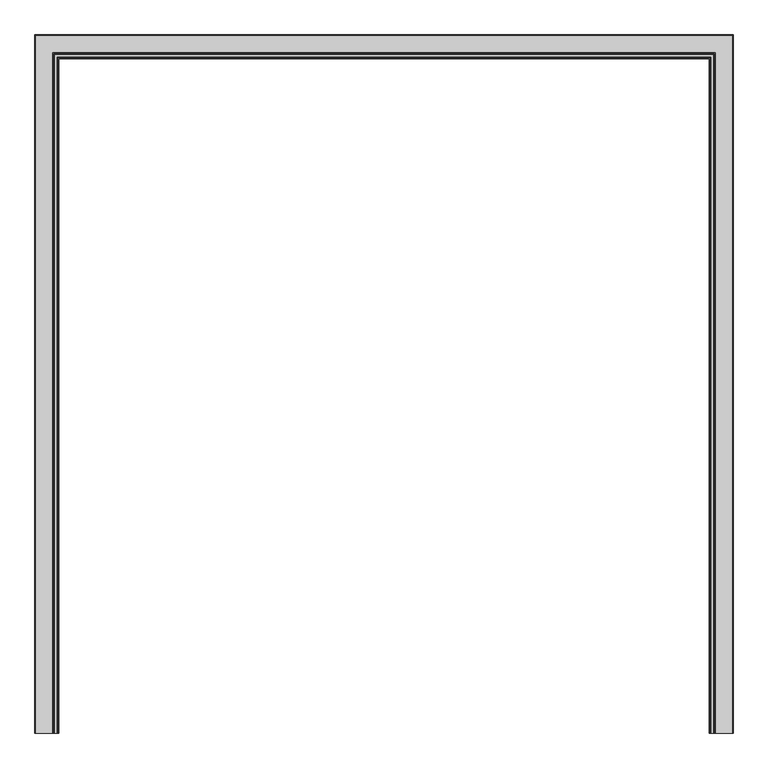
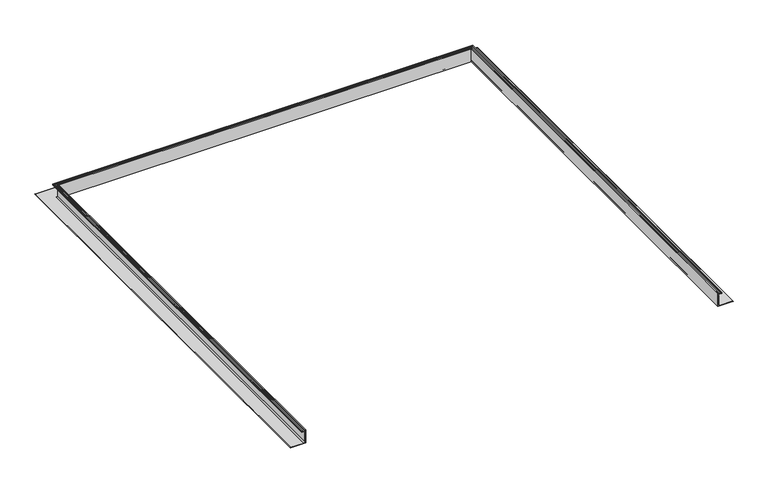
"""IFC4 building model written with IfcOpenShell, lengths in millimetres: fastener geometry."""

from ifc_helpers import new_model, si_unit, frame, origin, place, context, project, spatial, polyline, circle_curve, ellipse_curve, outline, extrude, source, transform, mapped, element, save
from ifc_brep_helpers import plane_surface, cylinder_surface, revolved_surface, advanced_brep


def fastener_6eb733fe(model_context):
    return source(origin(), model_context, "Body", "SolidModel", [
        advanced_brep(
        [(-1135.3165, -1219.2, -15.1804688), (-1141.2343456, -1219.2, -15.1804688), (-1141.460117, -1219.2, -17.1999455), (-1140.3710112, -1219.2, -18.2679836), (-1140.8594568, -1219.2, -19.21101), (-1152.5091166, -1219.2, -19.21101), (-1152.9649499, -1219.2, -18.2679836), (-1151.9131963, -1219.2, -17.1999455), (-1152.1178999, -1219.2, -15.1804688), (-1156.2117258, -1219.2, -15.1804688), (-1156.2117258, -1219.2, -21.87801), (-1137.9835, -1219.2, -21.87801), (-1137.9835, -1219.2, -81.1625171), (-1145.5344517, -1219.2, -88.7134688), (-1217.8665, -1219.2, -88.7134688), (-1217.8665, -1219.2, -91.3804688), (-1135.3165, -1219.2, -91.3804688), (1135.3165, -1219.2, -15.1804688), (1135.3165, -1219.2, -91.3804688), (1217.8665, -1219.2, -91.3804688), (1217.8665, -1219.2, -88.7134688), (1145.5344517, -1219.2, -88.7134688), (1137.9835, -1219.2, -81.1625171), (1137.9835, -1219.2, -21.87801), (1156.2117258, -1219.2, -21.87801), (1156.2117258, -1219.2, -15.1804688), (1152.1178999, -1219.2, -15.1804688), (1151.9131963, -1219.2, -17.1999455), (1152.9649499, -1219.2, -18.2679836), (1152.5091166, -1219.2, -19.21101), (1140.8594568, -1219.2, -19.21101), (1140.3710112, -1219.2, -18.2679836), (1141.460117, -1219.2, -17.1999455), (1141.2343456, -1219.2, -15.1804688), (-1141.460117, 1141.460117, -17.1999455), (-1141.2343456, 1141.2343456, -15.1804688), (1141.2343456, 1141.2343456, -15.1804688), (1141.460117, 1141.460117, -17.1999455), (-1140.3710112, 1140.3710112, -18.2679836), (1140.3710112, 1140.3710112, -18.2679836), (-1140.8594568, 1140.8594568, -19.21101), (1140.8594568, 1140.8594568, -19.21101), (-1152.9649499, 1152.9649499, -18.2679836), (-1152.5091166, 1152.5091166, -19.21101), (1152.5091166, 1152.5091166, -19.21101), (1152.9649499, 1152.9649499, -18.2679836), (-1151.9131963, 1151.9131963, -17.1999455), (1151.9131963, 1151.9131963, -17.1999455), (-1152.1178999, 1152.1178999, -15.1804688), (1152.1178999, 1152.1178999, -15.1804688), (-1156.2117258, 1156.2117258, -21.87801), (-1156.2117258, 1156.2117258, -15.1804688), (1156.2117258, 1156.2117258, -15.1804688), (1156.2117258, 1156.2117258, -21.87801), (-1137.9835, 1137.9835, -81.1625171), (-1137.9835, 1137.9835, -21.87801), (1137.9835, 1137.9835, -21.87801), (1137.9835, 1137.9835, -81.1625171), (-1145.5344517, 1145.5344517, -88.7134688), (1145.5344517, 1145.5344517, -88.7134688), (-1217.8665, 1217.8665, -91.3804688), (-1217.8665, 1217.8665, -88.7134688), (1217.8665, 1217.8665, -88.7134688), (1217.8665, 1217.8665, -91.3804688), (-1135.3165, 1135.3165, -15.1804688), (-1135.3165, 1135.3165, -91.3804688), (1135.3165, 1135.3165, -91.3804688), (1135.3165, 1135.3165, -15.1804688)],
        [
            (0, 1),
            (1, 2, circle_curve(frame((-1140.5022273, -1219.2, -16.284676), z_axis=(0.0, -1.0, 0.0), x_axis=(-1.0, 0.0, 0.0)), 1.3248664)),
            (2, 3),
            (3, 4, circle_curve(frame((-1140.8594568, -1219.2, -18.6130003), z_axis=(0.0, 1.0, 0.0), x_axis=(-1.0, 0.0, 0.0)), 0.5980097)),
            (4, 5),
            (5, 6, circle_curve(frame((-1152.5091166, -1219.2, -18.6293281), z_axis=(0.0, 1.0, 0.0), x_axis=(-1.0, 0.0, 0.0)), 0.5816819)),
            (6, 7),
            (7, 8, circle_curve(frame((-1152.8274757, -1219.2, -16.2725079), z_axis=(0.0, -1.0, 0.0), x_axis=(-1.0, 0.0, 0.0)), 1.3023238)),
            (8, 9),
            (9, 10),
            (10, 11),
            (11, 12),
            (12, 13, circle_curve(frame((-1145.5344517, -1219.2, -81.1625171), z_axis=(0.0, 1.0, 0.0), x_axis=(-1.0, 0.0, 0.0)), 7.5509517)),
            (13, 14),
            (14, 15, circle_curve(frame((-1217.8665, -1219.2, -90.0469688), z_axis=(0.0, -1.0, 0.0), x_axis=(-1.0, 0.0, 0.0)), 1.3335)),
            (15, 16),
            (16, 0),
            (17, 18),
            (18, 19),
            (19, 20, circle_curve(frame((1217.8665, -1219.2, -90.0469688), z_axis=(0.0, -1.0, 0.0), x_axis=(1.0, 0.0, 0.0)), 1.3335)),
            (20, 21),
            (21, 22, circle_curve(frame((1145.5344517, -1219.2, -81.1625171), z_axis=(0.0, 1.0, 0.0), x_axis=(1.0, 0.0, 0.0)), 7.5509517)),
            (22, 23),
            (23, 24),
            (24, 25),
            (25, 26),
            (26, 27, circle_curve(frame((1152.8274757, -1219.2, -16.2725079), z_axis=(0.0, -1.0, 0.0), x_axis=(1.0, 0.0, 0.0)), 1.3023238)),
            (27, 28),
            (28, 29, circle_curve(frame((1152.5091166, -1219.2, -18.6293281), z_axis=(0.0, 1.0, 0.0), x_axis=(1.0, 0.0, 0.0)), 0.5816819)),
            (29, 30),
            (30, 31, circle_curve(frame((1140.8594568, -1219.2, -18.6130003), z_axis=(0.0, 1.0, 0.0), x_axis=(1.0, 0.0, 0.0)), 0.5980097)),
            (31, 32),
            (32, 33, circle_curve(frame((1140.5022273, -1219.2, -16.284676), z_axis=(0.0, -1.0, 0.0), x_axis=(1.0, 0.0, 0.0)), 1.3248664)),
            (33, 17),
            (34, 35, ellipse_curve(frame((-1140.5022273, 1140.5022273, -16.284676), z_axis=(0.7071067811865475, 0.7071067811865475, 0.0), x_axis=(-0.7071067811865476, 0.7071067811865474, 0.0)), 1.873644, 1.3248664)),
            (35, 36),
            (36, 37, ellipse_curve(frame((1140.5022273, 1140.5022273, -16.284676), z_axis=(-0.7071067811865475, 0.7071067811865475, 0.0), x_axis=(-0.7071067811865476, -0.7071067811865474, 0.0)), 1.873644, 1.3248664)),
            (37, 34),
            (38, 34),
            (37, 39),
            (39, 38),
            (40, 38, ellipse_curve(frame((-1140.8594568, 1140.8594568, -18.6130003), z_axis=(-0.7071067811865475, -0.7071067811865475, 0.0), x_axis=(0.7071067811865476, -0.7071067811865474, 0.0)), 0.8457134, 0.5980097)),
            (39, 41, ellipse_curve(frame((1140.8594568, 1140.8594568, -18.6130003), z_axis=(0.7071067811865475, -0.7071067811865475, 0.0), x_axis=(0.7071067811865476, 0.7071067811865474, 0.0)), 0.8457134, 0.5980097)),
            (41, 40),
            (42, 43, ellipse_curve(frame((-1152.5091166, 1152.5091166, -18.6293281), z_axis=(-0.7071067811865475, -0.7071067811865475, 0.0), x_axis=(0.7071067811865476, -0.7071067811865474, 0.0)), 0.8226224, 0.5816819)),
            (43, 44),
            (44, 45, ellipse_curve(frame((1152.5091166, 1152.5091166, -18.6293281), z_axis=(0.7071067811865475, -0.7071067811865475, 0.0), x_axis=(0.7071067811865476, 0.7071067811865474, 0.0)), 0.8226224, 0.5816819)),
            (45, 42),
            (46, 42),
            (45, 47),
            (47, 46),
            (48, 46, ellipse_curve(frame((-1152.8274757, 1152.8274757, -16.2725079), z_axis=(0.7071067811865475, 0.7071067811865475, 0.0), x_axis=(-0.7071067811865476, 0.7071067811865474, 0.0)), 1.841764, 1.3023238)),
            (47, 49, ellipse_curve(frame((1152.8274757, 1152.8274757, -16.2725079), z_axis=(-0.7071067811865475, 0.7071067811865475, 0.0), x_axis=(-0.7071067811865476, -0.7071067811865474, 0.0)), 1.841764, 1.3023238)),
            (49, 48),
            (50, 51),
            (51, 52),
            (52, 53),
            (53, 50),
            (54, 55),
            (55, 56),
            (56, 57),
            (57, 54),
            (58, 54, ellipse_curve(frame((-1145.5344517, 1145.5344517, -81.1625171), z_axis=(-0.7071067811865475, -0.7071067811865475, 0.0), x_axis=(0.7071067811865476, -0.7071067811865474, 0.0)), 10.6786583, 7.5509517)),
            (57, 59, ellipse_curve(frame((1145.5344517, 1145.5344517, -81.1625171), z_axis=(0.7071067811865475, -0.7071067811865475, 0.0), x_axis=(0.7071067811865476, 0.7071067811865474, 0.0)), 10.6786583, 7.5509517)),
            (59, 58),
            (60, 61, ellipse_curve(frame((-1217.8665, 1217.8665, -90.0469688), z_axis=(0.7071067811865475, 0.7071067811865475, 0.0), x_axis=(-0.7071067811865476, 0.7071067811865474, 0.0)), 1.8858538, 1.3335)),
            (61, 62),
            (62, 63, ellipse_curve(frame((1217.8665, 1217.8665, -90.0469688), z_axis=(-0.7071067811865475, 0.7071067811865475, 0.0), x_axis=(-0.7071067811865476, -0.7071067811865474, 0.0)), 1.8858538, 1.3335)),
            (63, 60),
            (64, 65),
            (65, 66),
            (66, 67),
            (67, 64),
            (0, 64),
            (67, 17),
            (33, 36),
            (35, 1),
            (34, 2),
            (38, 3),
            (40, 4),
            (41, 30),
            (29, 44),
            (43, 5),
            (42, 6),
            (46, 7),
            (48, 8),
            (49, 26),
            (25, 52),
            (51, 9),
            (50, 10),
            (53, 24),
            (23, 56),
            (55, 11),
            (54, 12),
            (58, 13),
            (59, 21),
            (20, 62),
            (61, 14),
            (60, 15),
            (63, 19),
            (18, 66),
            (65, 16),
            (32, 37),
            (31, 39),
            (28, 45),
            (27, 47),
            (22, 57),
        ],
        [
            plane_surface(frame((-1219.2, -1219.2, 0.0), z_axis=(0.0, -1.0, 0.0), x_axis=(0.0, 0.0, 1.0))),
            plane_surface(frame((1219.2, -1219.2, 0.0), z_axis=(0.0, -1.0, 0.0), x_axis=(0.0, 0.0, 1.0))),
            cylinder_surface(frame((-1219.2, 1140.5022273, -16.284676), z_axis=(-1.0, 0.0, 0.0), x_axis=(0.0, 1.0, 0.0)), 1.3248664),
            plane_surface(frame((-1141.460117, 1141.460117, -17.1999455), z_axis=(0.0, 0.7001674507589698, -0.7139786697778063), x_axis=(1.0, 0.0, 0.0))),
            revolved_surface(polyline([(1141.4574664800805, 1141.4574665, -18.6130003), (-1141.4574664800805, 1141.4574665, -18.6130003)]), (-1219.2, 1140.8594568, -18.6130003), (1.0, 0.0, 0.0)),
            revolved_surface(polyline([(1153.090798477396, 1153.0907985, -18.6293281), (-1153.090798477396, 1153.0907985, -18.6293281)]), (-1219.2, 1152.5091166, -18.6293281), (1.0, 0.0, 0.0)),
            plane_surface(frame((-1152.9649499, 1152.9649499, -18.2679836), z_axis=(0.0, -0.7125178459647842, -0.7016539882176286), x_axis=(1.0, 0.0, 0.0))),
            cylinder_surface(frame((-1219.2, 1152.8274757, -16.2725079), z_axis=(-1.0, 0.0, 0.0), x_axis=(0.0, 1.0, 0.0)), 1.3023238),
            plane_surface(frame((-1156.2117258, 1156.2117258, -15.1804688), z_axis=(0.0, 1.0, 0.0), x_axis=(1.0, 0.0, 0.0))),
            plane_surface(frame((-1137.9835, 1137.9835, -21.87801), z_axis=(0.0, 1.0, 0.0), x_axis=(1.0, 0.0, 0.0))),
            revolved_surface(polyline([(1153.0854033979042, 1153.0854034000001, -81.1625171), (-1153.0854033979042, 1153.0854034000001, -81.1625171)]), (-1219.2, 1145.5344517, -81.1625171), (1.0, 0.0, 0.0)),
            cylinder_surface(frame((-1219.2, 1217.8665, -90.0469688), z_axis=(-1.0, 0.0, 0.0), x_axis=(0.0, 1.0, 0.0)), 1.3335),
            plane_surface(frame((-1135.3165, 1135.3165, -91.3804688), z_axis=(0.0, -1.0, 0.0), x_axis=(1.0, 0.0, 0.0))),
            plane_surface(frame((-1135.3165, -1219.2, -15.1804688), z_axis=(0.0, 0.0, 1.0), x_axis=(0.0, 1.0, 0.0))),
            cylinder_surface(frame((-1140.5022273, -1219.2, -16.284676), z_axis=(0.0, -1.0, 0.0), x_axis=(-1.0, 0.0, 0.0)), 1.3248664),
            plane_surface(frame((-1141.460117, -1219.2, -17.1999455), z_axis=(-0.7001674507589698, 0.0, -0.7139786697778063), x_axis=(0.0, 1.0, 0.0))),
            revolved_surface(polyline([(-1141.4574665, 1141.4574664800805, -18.6130003), (-1141.4574665, -1219.2, -18.6130003)]), (-1140.8594568, -1219.2, -18.6130003), (0.0, 1.0, 0.0)),
            plane_surface(frame((-1140.8594568, -1219.2, -19.21101), z_axis=(0.0, 0.0, 1.0), x_axis=(0.0, 1.0, 0.0))),
            revolved_surface(polyline([(-1153.0907985, 1153.090798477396, -18.6293281), (-1153.0907985, -1219.2, -18.6293281)]), (-1152.5091166, -1219.2, -18.6293281), (0.0, 1.0, 0.0)),
            plane_surface(frame((-1152.9649499, -1219.2, -18.2679836), z_axis=(0.7125178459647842, 0.0, -0.7016539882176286), x_axis=(0.0, 1.0, 0.0))),
            cylinder_surface(frame((-1152.8274757, -1219.2, -16.2725079), z_axis=(0.0, -1.0, 0.0), x_axis=(-1.0, 0.0, 0.0)), 1.3023238),
            plane_surface(frame((-1152.1178999, -1219.2, -15.1804688), z_axis=(0.0, 0.0, 1.0), x_axis=(0.0, 1.0, 0.0))),
            plane_surface(frame((-1156.2117258, -1219.2, -15.1804688), z_axis=(-1.0, 0.0, 0.0), x_axis=(0.0, 1.0, 0.0))),
            plane_surface(frame((-1156.2117258, -1219.2, -21.87801), z_axis=(0.0, 0.0, -1.0), x_axis=(0.0, 1.0, 0.0))),
            plane_surface(frame((-1137.9835, -1219.2, -21.87801), z_axis=(-1.0, 0.0, 0.0), x_axis=(0.0, 1.0, 0.0))),
            revolved_surface(polyline([(-1153.0854034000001, 1153.0854033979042, -81.1625171), (-1153.0854034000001, -1219.2, -81.1625171)]), (-1145.5344517, -1219.2, -81.1625171), (0.0, 1.0, 0.0)),
            plane_surface(frame((-1145.5344517, -1219.2, -88.7134688), z_axis=(0.0, 0.0, 1.0), x_axis=(0.0, 1.0, 0.0))),
            cylinder_surface(frame((-1217.8665, -1219.2, -90.0469688), z_axis=(0.0, -1.0, 0.0), x_axis=(-1.0, 0.0, 0.0)), 1.3335),
            plane_surface(frame((-1217.8665, -1219.2, -91.3804688), z_axis=(0.0, 0.0, -1.0), x_axis=(0.0, 1.0, 0.0))),
            plane_surface(frame((-1135.3165, -1219.2, -91.3804688), z_axis=(1.0, 0.0, 0.0), x_axis=(0.0, 1.0, 0.0))),
            cylinder_surface(frame((1140.5022273, 1219.2, -16.284676), z_axis=(0.0, 1.0, 0.0), x_axis=(1.0, 0.0, 0.0)), 1.3248664),
            plane_surface(frame((1141.460117, 1141.460117, -17.1999455), z_axis=(0.7001674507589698, 0.0, -0.7139786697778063), x_axis=(0.0, -1.0, 0.0))),
            revolved_surface(polyline([(1141.4574665, -1219.2, -18.6130003), (1141.4574665, 1141.4574664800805, -18.6130003)]), (1140.8594568, 1219.2, -18.6130003), (0.0, -1.0, 0.0)),
            revolved_surface(polyline([(1153.0907985, -1219.2, -18.6293281), (1153.0907985, 1153.090798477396, -18.6293281)]), (1152.5091166, 1219.2, -18.6293281), (0.0, -1.0, 0.0)),
            plane_surface(frame((1152.9649499, 1152.9649499, -18.2679836), z_axis=(-0.7125178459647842, 0.0, -0.7016539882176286), x_axis=(0.0, -1.0, 0.0))),
            cylinder_surface(frame((1152.8274757, 1219.2, -16.2725079), z_axis=(0.0, 1.0, 0.0), x_axis=(1.0, 0.0, 0.0)), 1.3023238),
            plane_surface(frame((1156.2117258, 1156.2117258, -15.1804688), z_axis=(1.0, 0.0, 0.0), x_axis=(0.0, -1.0, 0.0))),
            plane_surface(frame((1137.9835, 1137.9835, -21.87801), z_axis=(1.0, 0.0, 0.0), x_axis=(0.0, -1.0, 0.0))),
            revolved_surface(polyline([(1153.0854034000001, -1219.2, -81.1625171), (1153.0854034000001, 1153.0854033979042, -81.1625171)]), (1145.5344517, 1219.2, -81.1625171), (0.0, -1.0, 0.0)),
            cylinder_surface(frame((1217.8665, 1219.2, -90.0469688), z_axis=(0.0, 1.0, 0.0), x_axis=(1.0, 0.0, 0.0)), 1.3335),
            plane_surface(frame((1135.3165, 1135.3165, -91.3804688), z_axis=(-1.0, 0.0, 0.0), x_axis=(0.0, -1.0, 0.0))),
        ],
        [
            (0, [[1, 2, 3, 4, 5, 6, 7, 8, 9, 10, 11, 12, 13, 14, 15, 16, 17]]),
            (1, [[18, 19, 20, 21, 22, 23, 24, 25, 26, 27, 28, 29, 30, 31, 32, 33, 34]]),
            (2, [[35, 36, 37, 38]]),
            (3, [[39, -38, 40, 41]]),
            (4, [[42, -41, 43, 44]]),
            (5, [[45, 46, 47, 48]]),
            (6, [[49, -48, 50, 51]]),
            (7, [[52, -51, 53, 54]]),
            (8, [[55, 56, 57, 58]]),
            (9, [[59, 60, 61, 62]]),
            (10, [[63, -62, 64, 65]]),
            (11, [[66, 67, 68, 69]]),
            (12, [[70, 71, 72, 73]]),
            (13, [[-1, 74, -73, 75, -34, 76, -36, 77]]),
            (14, [[-2, -77, -35, 78]]),
            (15, [[-3, -78, -39, 79]]),
            (16, [[-4, -79, -42, 80]]),
            (17, [[-5, -80, -44, 81, -30, 82, -46, 83]]),
            (18, [[-6, -83, -45, 84]]),
            (19, [[-7, -84, -49, 85]]),
            (20, [[-8, -85, -52, 86]]),
            (21, [[-9, -86, -54, 87, -26, 88, -56, 89]]),
            (22, [[-10, -89, -55, 90]]),
            (23, [[-11, -90, -58, 91, -24, 92, -60, 93]]),
            (24, [[-12, -93, -59, 94]]),
            (25, [[-13, -94, -63, 95]]),
            (26, [[-14, -95, -65, 96, -21, 97, -67, 98]]),
            (27, [[-15, -98, -66, 99]]),
            (28, [[-16, -99, -69, 100, -19, 101, -71, 102]]),
            (29, [[-17, -102, -70, -74]]),
            (30, [[-37, -76, -33, 103]]),
            (31, [[-40, -103, -32, 104]]),
            (32, [[-43, -104, -31, -81]]),
            (33, [[-47, -82, -29, 105]]),
            (34, [[-50, -105, -28, 106]]),
            (35, [[-53, -106, -27, -87]]),
            (36, [[-57, -88, -25, -91]]),
            (37, [[-61, -92, -23, 107]]),
            (38, [[-64, -107, -22, -96]]),
            (39, [[-68, -97, -20, -100]]),
            (40, [[-72, -101, -18, -75]]),
        ],
    ),
        extrude(outline(polyline([(-1137.9835, -1219.2), (-1139.9113319, -1219.2), (-1139.9113319, 1139.9113319), (1139.9113319, 1139.9113319), (1139.9113319, -1219.2), (1137.9835, -1219.2), (1137.9835, 1137.9835), (-1137.9835, 1137.9835), (-1137.9835, -1219.2)])), frame((0.0, 0.0, -81.4585938), z_axis=(0.0, 0.0, 1.0), x_axis=(1.0, 0.0, 0.0)), (0.0, 0.0, 1.0), 53.18125),
    ])


if __name__ == "__main__":
    model = new_model("IFC4")
    model_context = context("Model", 3, world=origin())
    ifc_project = project(units=[si_unit("LENGTHUNIT", "METRE", prefix="MILLI")], contexts=[model_context])
    site = spatial("IfcSite", under=ifc_project)
    building = spatial("IfcBuilding", under=site)
    placement = place(None, origin())
    fastener_shape = fastener_6eb733fe(model_context)
    element("IfcFastener", 1, ObjectType="Structural-Supporting-Components_Advanced-Architectural-Products_GreenGirt-CMH-XO-System : GreenGirt CMH XO 3.0\"", at=placement, inside=building, context=model_context, shape_type="MappedRepresentation", body=[
        mapped(fastener_shape, transform((0.0, 0.0, 0.0), x_axis=(1.0, 0.0, 0.0), y_axis=(0.0, 1.0, 0.0), z_axis=(0.0, 0.0, 1.0))),
    ])
    save(model, "model.ifc")
